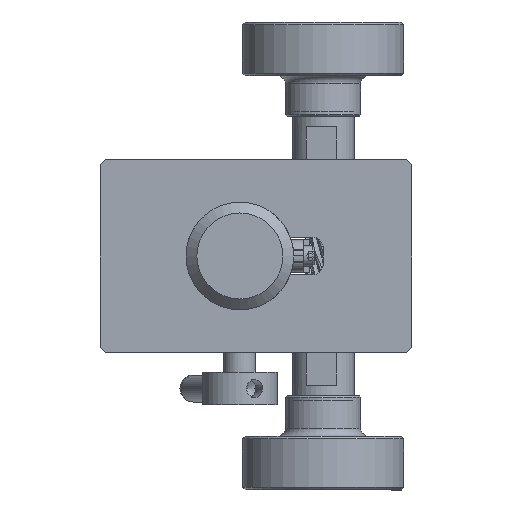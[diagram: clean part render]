
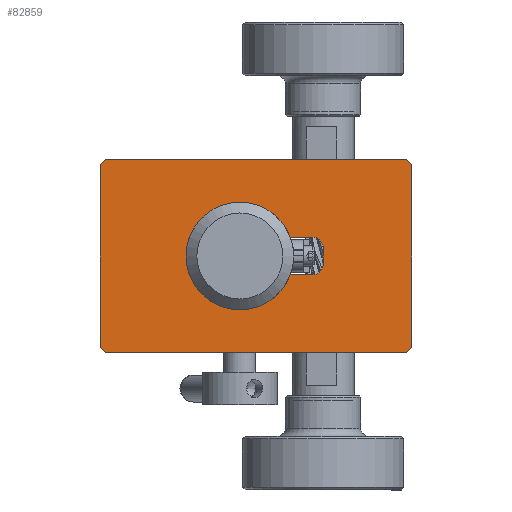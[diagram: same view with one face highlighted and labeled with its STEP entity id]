
A CAD part, front view. The second image highlights one B-rep face of the part: STEP entity #82859.
In plain terms, the highlighted planar face has unit normal (0, -1, 0).
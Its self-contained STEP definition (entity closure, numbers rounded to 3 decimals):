
#83 = DIRECTION ( 'NONE',  ( 1., 0., 0. ) ) ;
#262 = DIRECTION ( 'NONE',  ( -1., 0., 0. ) ) ;
#357 = VECTOR ( 'NONE', #129429, 1000. ) ;
#1277 = ORIENTED_EDGE ( 'NONE', *, *, #75588, .F. ) ;
#6243 = DIRECTION ( 'NONE',  ( -1., 0., 0. ) ) ;
#7162 = CARTESIAN_POINT ( 'NONE',  ( 31.742, 188.842, 93.708 ) ) ;
#8187 = ORIENTED_EDGE ( 'NONE', *, *, #64947, .T. ) ;
#8499 = VECTOR ( 'NONE', #27099, 1000. ) ;
#9328 = ORIENTED_EDGE ( 'NONE', *, *, #78746, .T. ) ;
#12636 = DIRECTION ( 'NONE',  ( 0., 0., -1. ) ) ;
#12655 = VERTEX_POINT ( 'NONE', #121885 ) ;
#12677 = LINE ( 'NONE', #44638, #59702 ) ;
#13233 = EDGE_CURVE ( 'NONE', #50286, #43804, #103985, .T. ) ;
#17568 = CARTESIAN_POINT ( 'NONE',  ( 31.742, 188.842, 93.708 ) ) ;
#17852 = ORIENTED_EDGE ( 'NONE', *, *, #96387, .T. ) ;
#18256 = LINE ( 'NONE', #17568, #135174 ) ;
#18681 = ORIENTED_EDGE ( 'NONE', *, *, #93459, .T. ) ;
#19978 = ORIENTED_EDGE ( 'NONE', *, *, #68352, .T. ) ;
#20276 = CARTESIAN_POINT ( 'NONE',  ( 35.874, 188.842, 93.708 ) ) ;
#20404 = FACE_BOUND ( 'NONE', #56773, .T. ) ;
#20429 = CARTESIAN_POINT ( 'NONE',  ( -3.626, 188.842, 73.208 ) ) ;
#23080 = CARTESIAN_POINT ( 'NONE',  ( 37.874, 188.842, 93.708 ) ) ;
#24414 = EDGE_CURVE ( 'NONE', #58809, #102943, #128907, .T. ) ;
#25323 = CARTESIAN_POINT ( 'NONE',  ( -3.626, 188.842, 73.208 ) ) ;
#26803 = DIRECTION ( 'NONE',  ( 0., 1., 0. ) ) ;
#27099 = DIRECTION ( 'NONE',  ( 0., 0., -1. ) ) ;
#27689 = EDGE_CURVE ( 'NONE', #43804, #12655, #35570, .T. ) ;
#28002 = DIRECTION ( 'NONE',  ( 1., 0., 0. ) ) ;
#28448 = CARTESIAN_POINT ( 'NONE',  ( 35.874, 188.842, 88.708 ) ) ;
#28964 = CARTESIAN_POINT ( 'NONE',  ( 54.374, 188.842, 73.208 ) ) ;
#29137 = AXIS2_PLACEMENT_3D ( 'NONE', #30816, #103699, #64123 ) ;
#30482 = CARTESIAN_POINT ( 'NONE',  ( 35.874, 188.842, 86.708 ) ) ;
#30754 = ORIENTED_EDGE ( 'NONE', *, *, #130525, .T. ) ;
#30816 = CARTESIAN_POINT ( 'NONE',  ( 54.374, 188.842, 72.208 ) ) ;
#34350 = LINE ( 'NONE', #119700, #357 ) ;
#35570 = LINE ( 'NONE', #23080, #51145 ) ;
#35591 = AXIS2_PLACEMENT_3D ( 'NONE', #28448, #81218, #93649 ) ;
#36828 = CARTESIAN_POINT ( 'NONE',  ( 54.374, 188.842, 72.208 ) ) ;
#37314 = EDGE_LOOP ( 'NONE', ( #44312, #30754, #1277, #19978, #110343, #18681, #67241, #17852 ) ) ;
#38977 = VECTOR ( 'NONE', #80128, 1000. ) ;
#41298 = CARTESIAN_POINT ( 'NONE',  ( 54.374, 188.842, 107.208 ) ) ;
#41498 = CARTESIAN_POINT ( 'NONE',  ( 53.374, 188.842, 108.208 ) ) ;
#43506 = VERTEX_POINT ( 'NONE', #41298 ) ;
#43804 = VERTEX_POINT ( 'NONE', #88258 ) ;
#44312 = ORIENTED_EDGE ( 'NONE', *, *, #109191, .F. ) ;
#44638 = CARTESIAN_POINT ( 'NONE',  ( 31.742, 188.842, 86.708 ) ) ;
#46587 = VECTOR ( 'NONE', #118484, 1000. ) ;
#48431 = DIRECTION ( 'NONE',  ( 0., 0., 1. ) ) ;
#50286 = VERTEX_POINT ( 'NONE', #20276 ) ;
#51145 = VECTOR ( 'NONE', #12636, 1000. ) ;
#51656 = CARTESIAN_POINT ( 'NONE',  ( -3.626, 188.842, 107.208 ) ) ;
#56052 = LINE ( 'NONE', #82152, #38977 ) ;
#56326 = CARTESIAN_POINT ( 'NONE',  ( 22.374, 188.842, 90.208 ) ) ;
#56773 = EDGE_LOOP ( 'NONE', ( #9328, #8187, #105529, #90905, #121588, #77641 ) ) ;
#57105 = VERTEX_POINT ( 'NONE', #58120 ) ;
#58120 = CARTESIAN_POINT ( 'NONE',  ( 31.742, 188.842, 86.708 ) ) ;
#58401 = DIRECTION ( 'NONE',  ( 0., 1., 0. ) ) ;
#58667 = LINE ( 'NONE', #25323, #117504 ) ;
#58809 = VERTEX_POINT ( 'NONE', #59987 ) ;
#58936 = VERTEX_POINT ( 'NONE', #7162 ) ;
#59702 = VECTOR ( 'NONE', #110571, 1000. ) ;
#59987 = CARTESIAN_POINT ( 'NONE',  ( 53.374, 188.842, 72.208 ) ) ;
#60093 = CIRCLE ( 'NONE', #115435, 10. ) ;
#61419 = FACE_OUTER_BOUND ( 'NONE', #37314, .T. ) ;
#63999 = LINE ( 'NONE', #95210, #71204 ) ;
#64123 = DIRECTION ( 'NONE',  ( -1., 0., 0. ) ) ;
#64947 = EDGE_CURVE ( 'NONE', #58936, #50286, #18256, .T. ) ;
#67241 = ORIENTED_EDGE ( 'NONE', *, *, #73906, .F. ) ;
#68352 = EDGE_CURVE ( 'NONE', #105103, #102943, #58667, .T. ) ;
#70268 = EDGE_CURVE ( 'NONE', #97925, #57105, #12677, .T. ) ;
#71204 = VECTOR ( 'NONE', #83, 1000. ) ;
#73906 = EDGE_CURVE ( 'NONE', #43506, #75393, #122189, .T. ) ;
#74126 = CARTESIAN_POINT ( 'NONE',  ( 54.374, 188.842, 72.208 ) ) ;
#75393 = VERTEX_POINT ( 'NONE', #28964 ) ;
#75588 = EDGE_CURVE ( 'NONE', #105103, #94795, #112949, .T. ) ;
#77641 = ORIENTED_EDGE ( 'NONE', *, *, #70268, .T. ) ;
#78746 = EDGE_CURVE ( 'NONE', #57105, #58936, #60093, .T. ) ;
#78781 = DIRECTION ( 'NONE',  ( 0.707, 0., -0.707 ) ) ;
#80128 = DIRECTION ( 'NONE',  ( -0.707, 0., -0.707 ) ) ;
#81218 = DIRECTION ( 'NONE',  ( 0., 1., 0. ) ) ;
#82152 = CARTESIAN_POINT ( 'NONE',  ( -2.626, 188.842, 108.208 ) ) ;
#82859 = ADVANCED_FACE ( 'NONE', ( #20404, #61419 ), #114120, .F. ) ;
#87685 = EDGE_CURVE ( 'NONE', #12655, #97925, #108798, .T. ) ;
#88258 = CARTESIAN_POINT ( 'NONE',  ( 37.874, 188.842, 91.708 ) ) ;
#90905 = ORIENTED_EDGE ( 'NONE', *, *, #27689, .T. ) ;
#93459 = EDGE_CURVE ( 'NONE', #58809, #75393, #34350, .T. ) ;
#93649 = DIRECTION ( 'NONE',  ( -1., 0., 0. ) ) ;
#93801 = LINE ( 'NONE', #114635, #104746 ) ;
#94795 = VERTEX_POINT ( 'NONE', #51656 ) ;
#95210 = CARTESIAN_POINT ( 'NONE',  ( 54.374, 188.842, 108.208 ) ) ;
#96387 = EDGE_CURVE ( 'NONE', #43506, #130085, #93801, .T. ) ;
#97925 = VERTEX_POINT ( 'NONE', #30482 ) ;
#102943 = VERTEX_POINT ( 'NONE', #126076 ) ;
#103699 = DIRECTION ( 'NONE',  ( 0., 1., 0. ) ) ;
#103985 = CIRCLE ( 'NONE', #128339, 2. ) ;
#104746 = VECTOR ( 'NONE', #136164, 1000. ) ;
#105103 = VERTEX_POINT ( 'NONE', #20429 ) ;
#105502 = CARTESIAN_POINT ( 'NONE',  ( -2.626, 188.842, 108.208 ) ) ;
#105529 = ORIENTED_EDGE ( 'NONE', *, *, #13233, .T. ) ;
#108798 = CIRCLE ( 'NONE', #35591, 2. ) ;
#109191 = EDGE_CURVE ( 'NONE', #127669, #130085, #63999, .T. ) ;
#110343 = ORIENTED_EDGE ( 'NONE', *, *, #24414, .F. ) ;
#110571 = DIRECTION ( 'NONE',  ( -1., 0., 0. ) ) ;
#112949 = LINE ( 'NONE', #135848, #123765 ) ;
#114120 = PLANE ( 'NONE',  #29137 ) ;
#114635 = CARTESIAN_POINT ( 'NONE',  ( 54.374, 188.842, 107.208 ) ) ;
#115435 = AXIS2_PLACEMENT_3D ( 'NONE', #56326, #58401, #6243 ) ;
#117504 = VECTOR ( 'NONE', #78781, 1000. ) ;
#118484 = DIRECTION ( 'NONE',  ( -1., 0., 0. ) ) ;
#119700 = CARTESIAN_POINT ( 'NONE',  ( 53.374, 188.842, 72.208 ) ) ;
#121588 = ORIENTED_EDGE ( 'NONE', *, *, #87685, .T. ) ;
#121881 = CARTESIAN_POINT ( 'NONE',  ( 35.874, 188.842, 91.708 ) ) ;
#121885 = CARTESIAN_POINT ( 'NONE',  ( 37.874, 188.842, 88.708 ) ) ;
#122189 = LINE ( 'NONE', #36828, #8499 ) ;
#123765 = VECTOR ( 'NONE', #48431, 1000. ) ;
#126076 = CARTESIAN_POINT ( 'NONE',  ( -2.626, 188.842, 72.208 ) ) ;
#127669 = VERTEX_POINT ( 'NONE', #105502 ) ;
#128339 = AXIS2_PLACEMENT_3D ( 'NONE', #121881, #26803, #262 ) ;
#128907 = LINE ( 'NONE', #74126, #46587 ) ;
#129429 = DIRECTION ( 'NONE',  ( 0.707, 0., 0.707 ) ) ;
#130085 = VERTEX_POINT ( 'NONE', #41498 ) ;
#130525 = EDGE_CURVE ( 'NONE', #127669, #94795, #56052, .T. ) ;
#135174 = VECTOR ( 'NONE', #28002, 1000. ) ;
#135848 = CARTESIAN_POINT ( 'NONE',  ( -3.626, 188.842, 72.208 ) ) ;
#136164 = DIRECTION ( 'NONE',  ( -0.707, 0., 0.707 ) ) ;
